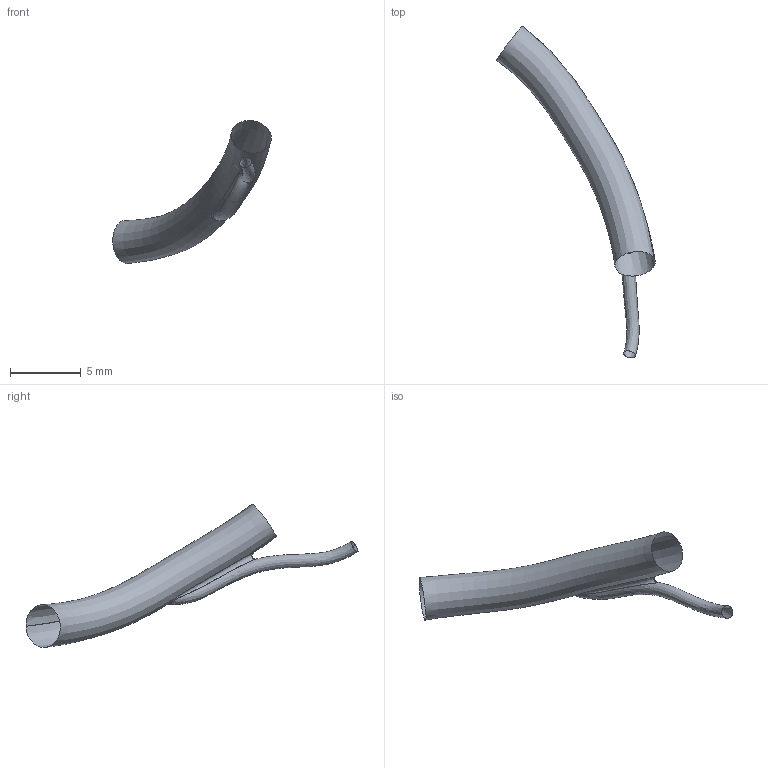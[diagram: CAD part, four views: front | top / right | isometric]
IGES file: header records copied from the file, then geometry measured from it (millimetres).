
Global section: file name: C:\Documents and Settings\Administrator\Desktop\FDA-Pig\Domestic RCA\Pig_000006\rv.es.igs; native system: Rhinoceros ( May 19 2006 ); preprocessor: Trout Lake IGES 012 May 19 2006; date: 111205.185419; units: centimetre
Bounding box: 11.17 x 23.38 x 10.08 mm (x, y, z)
Surface area: 213.3 mm2 (no closed solid volume)
Topology: 0 solids, 0 shells, 3 faces, 51 edges, 48 vertices
Faces by surface type: bspline 3
